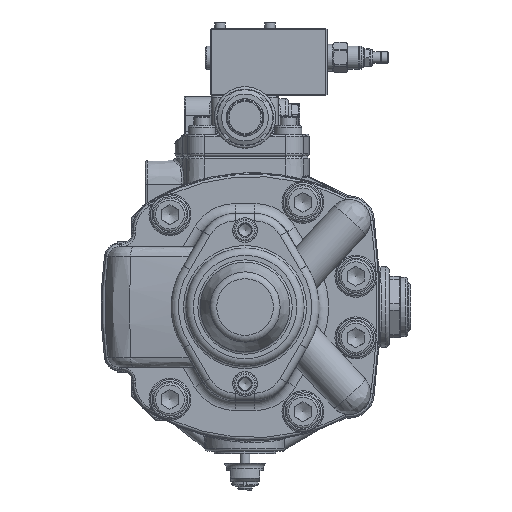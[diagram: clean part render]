
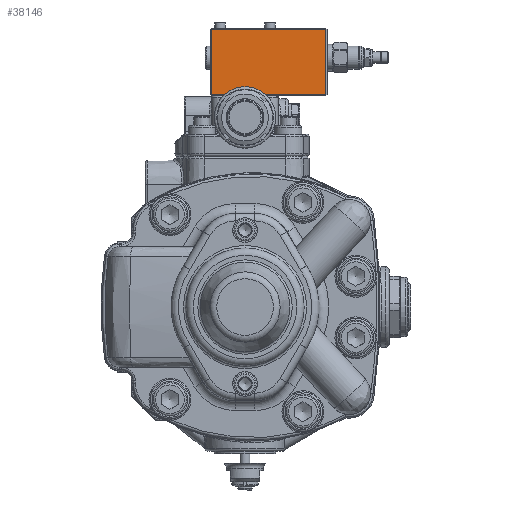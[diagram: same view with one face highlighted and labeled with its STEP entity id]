
A CAD part, front view. The second image highlights one B-rep face of the part: STEP entity #38146.
In plain terms, the highlighted planar face has unit normal (0, -1, 0).
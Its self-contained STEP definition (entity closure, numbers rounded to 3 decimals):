
#1999=LINE('',#56302,#4188);
#2001=LINE('',#56306,#4190);
#2004=LINE('',#56310,#4193);
#2010=LINE('',#56321,#4199);
#4188=VECTOR('',#45440,10.);
#4190=VECTOR('',#45446,10.);
#4193=VECTOR('',#45451,10.);
#4199=VECTOR('',#45467,10.);
#6272=PLANE('',#40700);
#7148=FACE_OUTER_BOUND('',#9450,.T.);
#9450=EDGE_LOOP('',(#25180,#25181,#25182,#25183));
#15185=VERTEX_POINT('',#56274);
#15186=VERTEX_POINT('',#56278);
#15191=VERTEX_POINT('',#56292);
#15193=VERTEX_POINT('',#56297);
#18929=EDGE_CURVE('',#15193,#15191,#1999,.T.);
#18931=EDGE_CURVE('',#15186,#15193,#2001,.T.);
#18934=EDGE_CURVE('',#15191,#15185,#2004,.T.);
#18940=EDGE_CURVE('',#15185,#15186,#2010,.T.);
#25180=ORIENTED_EDGE('',*,*,#18929,.F.);
#25181=ORIENTED_EDGE('',*,*,#18931,.F.);
#25182=ORIENTED_EDGE('',*,*,#18940,.F.);
#25183=ORIENTED_EDGE('',*,*,#18934,.F.);
#38146=ADVANCED_FACE('',(#7148),#6272,.T.);
#40700=AXIS2_PLACEMENT_3D('',#56335,#45484,#45485);
#45440=DIRECTION('',(1.,0.,0.));
#45446=DIRECTION('',(0.,0.,1.));
#45451=DIRECTION('',(0.,0.,-1.));
#45467=DIRECTION('',(-1.,0.,0.));
#45484=DIRECTION('center_axis',(0.,-1.,0.));
#45485=DIRECTION('ref_axis',(0.,0.,
1.));
#56274=CARTESIAN_POINT('',(69.311,-61.312,173.499));
#56278=CARTESIAN_POINT('',(-23.689,-61.312,173.499));
#56292=CARTESIAN_POINT('',(69.311,-61.312,226.499));
#56297=CARTESIAN_POINT('',(-23.689,-61.312,226.499));
#56302=CARTESIAN_POINT('',(-0.939,-61.312,226.499));
#56306=CARTESIAN_POINT('',(-23.689,-61.312,227.499));
#56310=CARTESIAN_POINT('',(69.311,-61.312,227.499));
#56321=CARTESIAN_POINT('',(-0.939,-61.312,173.499));
#56335=CARTESIAN_POINT('Origin',(-24.689,-61.312,227.499));
